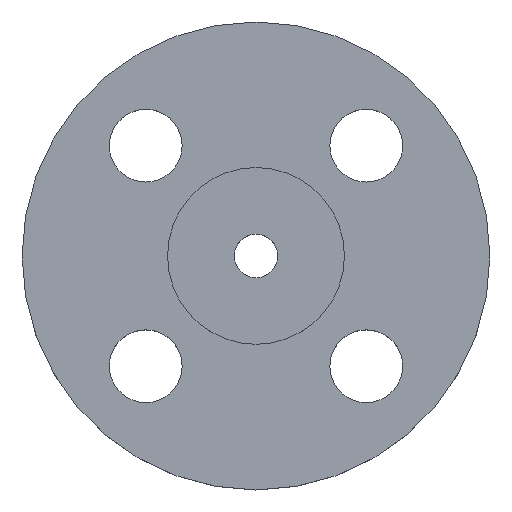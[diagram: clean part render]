
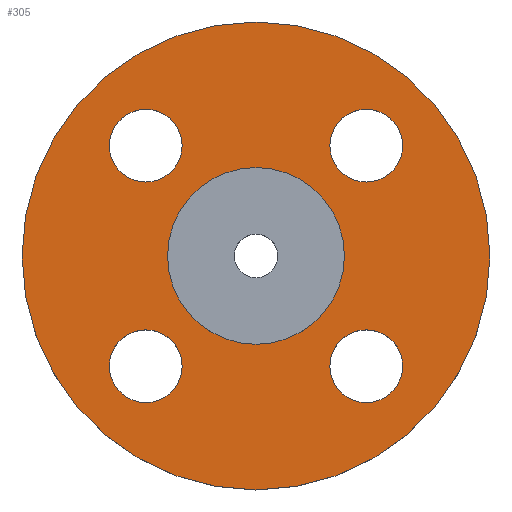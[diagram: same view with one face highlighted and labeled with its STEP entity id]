
A CAD part, top view. The second image highlights one B-rep face of the part: STEP entity #305.
In plain terms, the highlighted planar face has unit normal (0, 0, 1).
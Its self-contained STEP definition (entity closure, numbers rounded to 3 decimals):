
#3 = VERTEX_POINT ( 'NONE', #570 ) ;
#10 = AXIS2_PLACEMENT_3D ( 'NONE', #598, #599, #600 ) ;
#29 = AXIS2_PLACEMENT_3D ( 'NONE', #69, #65, #63 ) ;
#32 = CIRCLE ( 'NONE', #29, 7. ) ;
#36 = EDGE_CURVE ( 'NONE', #276, #3, #387, .T. ) ;
#46 = VERTEX_POINT ( 'NONE', #601 ) ;
#63 = DIRECTION ( 'NONE',  ( 1., 0., 0. ) ) ;
#65 = DIRECTION ( 'NONE',  ( 0., 0., -1. ) ) ;
#69 = CARTESIAN_POINT ( 'NONE',  ( -21.213, -21.213, -4.5 ) ) ;
#79 = AXIS2_PLACEMENT_3D ( 'NONE', #227, #230, #236 ) ;
#91 = DIRECTION ( 'NONE',  ( 1., 0., 0. ) ) ;
#92 = DIRECTION ( 'NONE',  ( 0., 0., -1. ) ) ;
#94 = CARTESIAN_POINT ( 'NONE',  ( 21.213, -21.213, -4.5 ) ) ;
#96 = CARTESIAN_POINT ( 'NONE',  ( -45., 0., -4.5 ) ) ;
#97 = EDGE_CURVE ( 'NONE', #534, #516, #339, .T. ) ;
#98 = CIRCLE ( 'NONE', #79, 7. ) ;
#104 = CARTESIAN_POINT ( 'NONE',  ( 14.213, -21.213, -4.5 ) ) ;
#107 = CARTESIAN_POINT ( 'NONE',  ( 28.213, -21.213, -4.5 ) ) ;
#115 = CARTESIAN_POINT ( 'NONE',  ( -28.213, -21.213, -4.5 ) ) ;
#121 = EDGE_CURVE ( 'NONE', #46, #531, #389, .T. ) ;
#122 = CIRCLE ( 'NONE', #503, 7. ) ;
#132 = CARTESIAN_POINT ( 'NONE',  ( -28.213, 21.213, -4.5 ) ) ;
#147 = EDGE_CURVE ( 'NONE', #520, #393, #538, .T. ) ;
#149 = CIRCLE ( 'NONE', #154, 17. ) ;
#153 = CARTESIAN_POINT ( 'NONE',  ( 45., 0., -4.5 ) ) ;
#154 = AXIS2_PLACEMENT_3D ( 'NONE', #721, #722, #194 ) ;
#169 = CARTESIAN_POINT ( 'NONE',  ( -14.213, 21.213, -4.5 ) ) ;
#184 = AXIS2_PLACEMENT_3D ( 'NONE', #290, #291, #293 ) ;
#188 = CIRCLE ( 'NONE', #184, 45. ) ;
#189 = CIRCLE ( 'NONE', #332, 45. ) ;
#194 = DIRECTION ( 'NONE',  ( -1., 0., 0. ) ) ;
#218 = CARTESIAN_POINT ( 'NONE',  ( 0., 0., -4.5 ) ) ;
#219 = EDGE_CURVE ( 'NONE', #531, #46, #149, .T. ) ;
#220 = DIRECTION ( 'NONE',  ( 0., 0., -1. ) ) ;
#226 = DIRECTION ( 'NONE',  ( -1., 0., 0. ) ) ;
#227 = CARTESIAN_POINT ( 'NONE',  ( -21.213, -21.213, -4.5 ) ) ;
#230 = DIRECTION ( 'NONE',  ( 0., 0., -1. ) ) ;
#231 = EDGE_CURVE ( 'NONE', #544, #407, #189, .T. ) ;
#233 = AXIS2_PLACEMENT_3D ( 'NONE', #349, #350, #355 ) ;
#236 = DIRECTION ( 'NONE',  ( 1., 0., 0. ) ) ;
#238 = EDGE_CURVE ( 'NONE', #360, #536, #98, .T. ) ;
#260 = EDGE_CURVE ( 'NONE', #407, #544, #188, .T. ) ;
#268 = AXIS2_PLACEMENT_3D ( 'NONE', #655, #656, #657 ) ;
#271 = EDGE_CURVE ( 'NONE', #3, #276, #365, .T. ) ;
#276 = VERTEX_POINT ( 'NONE', #317 ) ;
#290 = CARTESIAN_POINT ( 'NONE',  ( 0., 0., -4.5 ) ) ;
#291 = DIRECTION ( 'NONE',  ( 0., 0., -1. ) ) ;
#293 = DIRECTION ( 'NONE',  ( -1., 0., 0. ) ) ;
#301 = CARTESIAN_POINT ( 'NONE',  ( 21.213, 21.213, -4.5 ) ) ;
#302 = DIRECTION ( 'NONE',  ( 0., 0., -1. ) ) ;
#303 = DIRECTION ( 'NONE',  ( 1., 0., 0. ) ) ;
#305 = ADVANCED_FACE ( 'NONE', ( #326, #327, #328, #329, #330, #331 ), #333, .T. ) ;
#312 = AXIS2_PLACEMENT_3D ( 'NONE', #637, #638, #639 ) ;
#317 = CARTESIAN_POINT ( 'NONE',  ( 14.213, 21.213, -4.5 ) ) ;
#326 = FACE_BOUND ( 'NONE', #532, .T. ) ;
#327 = FACE_BOUND ( 'NONE', #461, .T. ) ;
#328 = FACE_BOUND ( 'NONE', #540, .T. ) ;
#329 = FACE_BOUND ( 'NONE', #556, .T. ) ;
#330 = FACE_BOUND ( 'NONE', #555, .T. ) ;
#331 = FACE_OUTER_BOUND ( 'NONE', #504, .T. ) ;
#332 = AXIS2_PLACEMENT_3D ( 'NONE', #218, #220, #226 ) ;
#333 = PLANE ( 'NONE',  #368 ) ;
#334 = CARTESIAN_POINT ( 'NONE',  ( 17., 0., -4.5 ) ) ;
#337 = DIRECTION ( 'NONE',  ( 0., 0., 1. ) ) ;
#338 = DIRECTION ( 'NONE',  ( 1., 0., 0. ) ) ;
#339 = CIRCLE ( 'NONE', #702, 7. ) ;
#347 = EDGE_CURVE ( 'NONE', #516, #534, #631, .T. ) ;
#349 = CARTESIAN_POINT ( 'NONE',  ( -21.213, 21.213, -4.5 ) ) ;
#350 = DIRECTION ( 'NONE',  ( 0., 0., -1. ) ) ;
#355 = DIRECTION ( 'NONE',  ( 1., 0., 0. ) ) ;
#360 = VERTEX_POINT ( 'NONE', #361 ) ;
#361 = CARTESIAN_POINT ( 'NONE',  ( -14.213, -21.213, -4.5 ) ) ;
#365 = CIRCLE ( 'NONE', #366, 7. ) ;
#366 = AXIS2_PLACEMENT_3D ( 'NONE', #301, #302, #303 ) ;
#368 = AXIS2_PLACEMENT_3D ( 'NONE', #334, #337, #338 ) ;
#372 = CARTESIAN_POINT ( 'NONE',  ( 17., 0., -4.5 ) ) ;
#387 = CIRCLE ( 'NONE', #10, 7. ) ;
#389 = CIRCLE ( 'NONE', #312, 17. ) ;
#393 = VERTEX_POINT ( 'NONE', #107 ) ;
#407 = VERTEX_POINT ( 'NONE', #153 ) ;
#445 = ORIENTED_EDGE ( 'NONE', *, *, #549, .T. ) ;
#447 = ORIENTED_EDGE ( 'NONE', *, *, #147, .T. ) ;
#449 = ORIENTED_EDGE ( 'NONE', *, *, #238, .T. ) ;
#450 = ORIENTED_EDGE ( 'NONE', *, *, #685, .T. ) ;
#452 = ORIENTED_EDGE ( 'NONE', *, *, #97, .T. ) ;
#453 = ORIENTED_EDGE ( 'NONE', *, *, #347, .T. ) ;
#455 = ORIENTED_EDGE ( 'NONE', *, *, #271, .T. ) ;
#456 = ORIENTED_EDGE ( 'NONE', *, *, #36, .T. ) ;
#457 = ORIENTED_EDGE ( 'NONE', *, *, #121, .T. ) ;
#458 = ORIENTED_EDGE ( 'NONE', *, *, #219, .T. ) ;
#459 = ORIENTED_EDGE ( 'NONE', *, *, #260, .F. ) ;
#460 = ORIENTED_EDGE ( 'NONE', *, *, #231, .F. ) ;
#461 = EDGE_LOOP ( 'NONE', ( #449, #450 ) ) ;
#503 = AXIS2_PLACEMENT_3D ( 'NONE', #94, #92, #91 ) ;
#504 = EDGE_LOOP ( 'NONE', ( #459, #460 ) ) ;
#516 = VERTEX_POINT ( 'NONE', #132 ) ;
#520 = VERTEX_POINT ( 'NONE', #104 ) ;
#531 = VERTEX_POINT ( 'NONE', #372 ) ;
#532 = EDGE_LOOP ( 'NONE', ( #445, #447 ) ) ;
#534 = VERTEX_POINT ( 'NONE', #169 ) ;
#536 = VERTEX_POINT ( 'NONE', #115 ) ;
#538 = CIRCLE ( 'NONE', #268, 7. ) ;
#540 = EDGE_LOOP ( 'NONE', ( #452, #453 ) ) ;
#544 = VERTEX_POINT ( 'NONE', #96 ) ;
#549 = EDGE_CURVE ( 'NONE', #393, #520, #122, .T. ) ;
#555 = EDGE_LOOP ( 'NONE', ( #457, #458 ) ) ;
#556 = EDGE_LOOP ( 'NONE', ( #455, #456 ) ) ;
#570 = CARTESIAN_POINT ( 'NONE',  ( 28.213, 21.213, -4.5 ) ) ;
#598 = CARTESIAN_POINT ( 'NONE',  ( 21.213, 21.213, -4.5 ) ) ;
#599 = DIRECTION ( 'NONE',  ( 0., 0., -1. ) ) ;
#600 = DIRECTION ( 'NONE',  ( 1., 0., 0. ) ) ;
#601 = CARTESIAN_POINT ( 'NONE',  ( -17., 0., -4.5 ) ) ;
#622 = CARTESIAN_POINT ( 'NONE',  ( -21.213, 21.213, -4.5 ) ) ;
#623 = DIRECTION ( 'NONE',  ( 0., 0., -1. ) ) ;
#624 = DIRECTION ( 'NONE',  ( 1., 0., 0. ) ) ;
#631 = CIRCLE ( 'NONE', #233, 7. ) ;
#637 = CARTESIAN_POINT ( 'NONE',  ( 0., 0., -4.5 ) ) ;
#638 = DIRECTION ( 'NONE',  ( 0., 0., -1. ) ) ;
#639 = DIRECTION ( 'NONE',  ( -1., 0., 0. ) ) ;
#655 = CARTESIAN_POINT ( 'NONE',  ( 21.213, -21.213, -4.5 ) ) ;
#656 = DIRECTION ( 'NONE',  ( 0., 0., -1. ) ) ;
#657 = DIRECTION ( 'NONE',  ( 1., 0., 0. ) ) ;
#685 = EDGE_CURVE ( 'NONE', #536, #360, #32, .T. ) ;
#702 = AXIS2_PLACEMENT_3D ( 'NONE', #622, #623, #624 ) ;
#721 = CARTESIAN_POINT ( 'NONE',  ( 0., 0., -4.5 ) ) ;
#722 = DIRECTION ( 'NONE',  ( 0., 0., -1. ) ) ;
